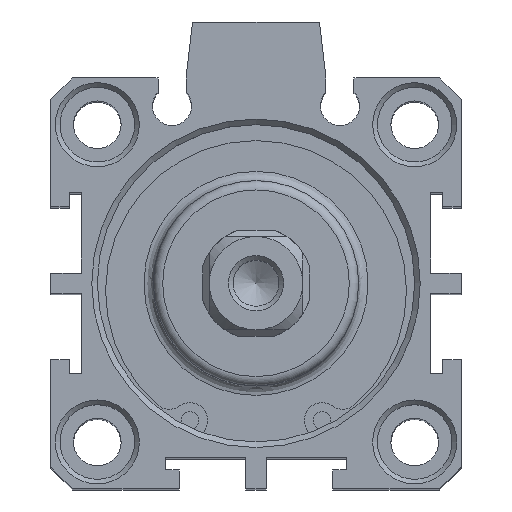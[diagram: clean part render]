
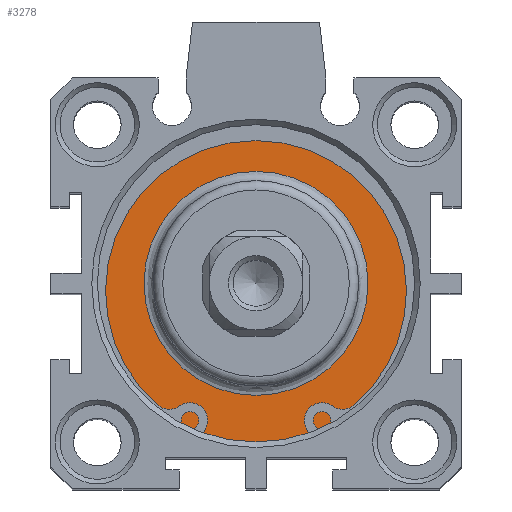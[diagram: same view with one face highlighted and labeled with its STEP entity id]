
A CAD part, top view. The second image highlights one B-rep face of the part: STEP entity #3278.
In plain terms, the highlighted planar face has unit normal (0, 0, 1).
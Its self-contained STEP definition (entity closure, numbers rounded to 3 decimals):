
#3227=CARTESIAN_POINT('',(-3.726,11.88,80.3));
#3228=VERTEX_POINT('',#3227);
#3229=CARTESIAN_POINT('',(-3.726,-0.12,80.3));
#3230=DIRECTION('',(0.0,0.0,1.0));
#3231=DIRECTION('',(0.0,-1.0,0.0));
#3232=AXIS2_PLACEMENT_3D('',#3229,#3230,#3231);
#3233=CIRCLE('',#3232,12.);
#3234=EDGE_CURVE('',#3228,#3228,#3233,.T.);
#3259=CARTESIAN_POINT('',(-3.726,13.88,80.3));
#3260=DIRECTION('',(0.0,0.0,1.0));
#3261=DIRECTION('',(1.0,0.0,0.0));
#3262=AXIS2_PLACEMENT_3D('',#3259,#3260,#3261);
#3263=PLANE('',#3262);
#3264=CARTESIAN_POINT('',(-3.726,16.88,80.3));
#3265=VERTEX_POINT('',#3264);
#3266=CARTESIAN_POINT('',(-3.726,-0.12,80.3));
#3267=DIRECTION('',(0.0,0.0,-1.0));
#3268=DIRECTION('',(0.0,1.0,0.0));
#3269=AXIS2_PLACEMENT_3D('',#3266,#3267,#3268);
#3270=CIRCLE('',#3269,17.);
#3271=EDGE_CURVE('',#3265,#3265,#3270,.T.);
#3272=ORIENTED_EDGE('',*,*,#3271,.F.);
#3273=EDGE_LOOP('',(#3272));
#3274=FACE_OUTER_BOUND('',#3273,.T.);
#3275=ORIENTED_EDGE('',*,*,#3234,.F.);
#3276=EDGE_LOOP('',(#3275));
#3277=FACE_BOUND('',#3276,.T.);
#3278=ADVANCED_FACE('',(#3274,#3277),#3263,.T.);
